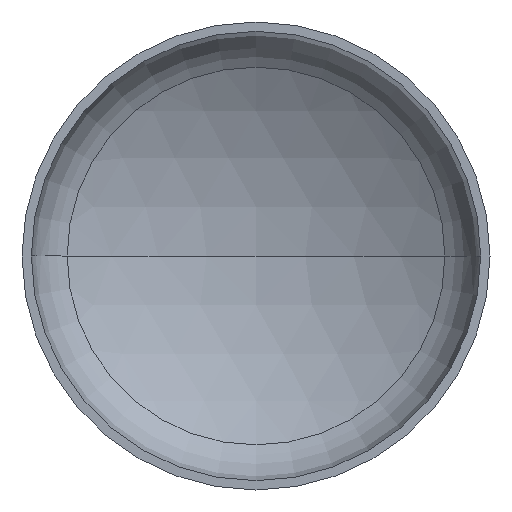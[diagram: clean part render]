
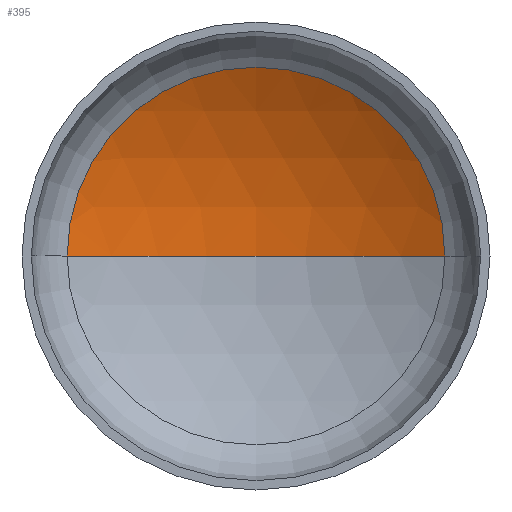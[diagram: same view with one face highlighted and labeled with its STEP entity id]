
A CAD part, front view. The second image highlights one B-rep face of the part: STEP entity #395.
In plain terms, the highlighted spherical face has radius 960 mm.
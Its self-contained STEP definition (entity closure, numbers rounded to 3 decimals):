
#8 = EDGE_LOOP ( 'NONE', ( #88, #33, #81 ) ) ;
#16 = AXIS2_PLACEMENT_3D ( 'NONE', #153, #376, #271 ) ;
#18 = DIRECTION ( 'NONE',  ( 0., 0., -1. ) ) ;
#25 = AXIS2_PLACEMENT_3D ( 'NONE', #174, #301, #183 ) ;
#30 = AXIS2_PLACEMENT_3D ( 'NONE', #346, #202, #372 ) ;
#33 = ORIENTED_EDGE ( 'NONE', *, *, #333, .T. ) ;
#55 = VERTEX_POINT ( 'NONE', #242 ) ;
#75 = VERTEX_POINT ( 'NONE', #241 ) ;
#81 = ORIENTED_EDGE ( 'NONE', *, *, #345, .T. ) ;
#88 = ORIENTED_EDGE ( 'NONE', *, *, #337, .F. ) ;
#93 = VERTEX_POINT ( 'NONE', #243 ) ;
#130 = DIRECTION ( 'NONE',  ( -1., 0., 0. ) ) ;
#153 = CARTESIAN_POINT ( 'NONE',  ( 0., 234.729, 0. ) ) ;
#174 = CARTESIAN_POINT ( 'NONE',  ( 0., -594.137, 0. ) ) ;
#183 = DIRECTION ( 'NONE',  ( 1., 0., 0. ) ) ;
#187 = CIRCLE ( 'NONE', #30, 960. ) ;
#202 = DIRECTION ( 'NONE',  ( 0., 0., -1. ) ) ;
#232 = FACE_OUTER_BOUND ( 'NONE', #8, .T. ) ;
#241 = CARTESIAN_POINT ( 'NONE',  ( 484.335, 234.729, 0. ) ) ;
#242 = CARTESIAN_POINT ( 'NONE',  ( 0., 365.863, 0. ) ) ;
#243 = CARTESIAN_POINT ( 'NONE',  ( -484.335, 234.729, 0. ) ) ;
#271 = DIRECTION ( 'NONE',  ( 1., 0., 0. ) ) ;
#301 = DIRECTION ( 'NONE',  ( 0., 0., 1. ) ) ;
#302 = CIRCLE ( 'NONE', #25, 960. ) ;
#333 = EDGE_CURVE ( 'NONE', #55, #75, #187, .T. ) ;
#337 = EDGE_CURVE ( 'NONE', #55, #93, #302, .T. ) ;
#345 = EDGE_CURVE ( 'NONE', #75, #93, #365, .T. ) ;
#346 = CARTESIAN_POINT ( 'NONE',  ( 0., -594.137, 0. ) ) ;
#349 = SPHERICAL_SURFACE ( 'NONE', #400, 960. ) ;
#365 = CIRCLE ( 'NONE', #16, 484.335 ) ;
#372 = DIRECTION ( 'NONE',  ( -1., 0., 0. ) ) ;
#375 = CARTESIAN_POINT ( 'NONE',  ( 0., -594.137, 0. ) ) ;
#376 = DIRECTION ( 'NONE',  ( 0., -1., 0. ) ) ;
#395 = ADVANCED_FACE ( 'NONE', ( #232 ), #349, .F. ) ;
#400 = AXIS2_PLACEMENT_3D ( 'NONE', #375, #18, #130 ) ;
